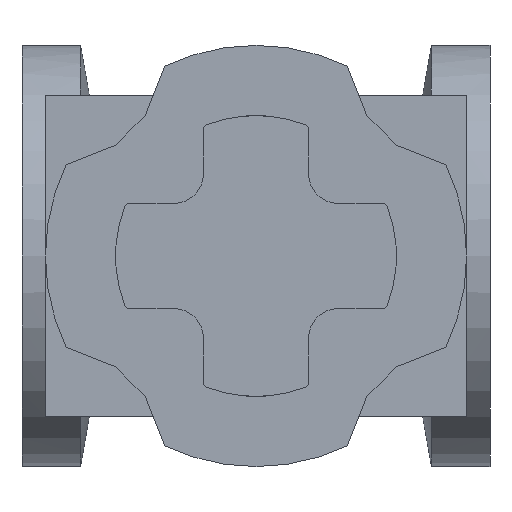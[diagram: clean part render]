
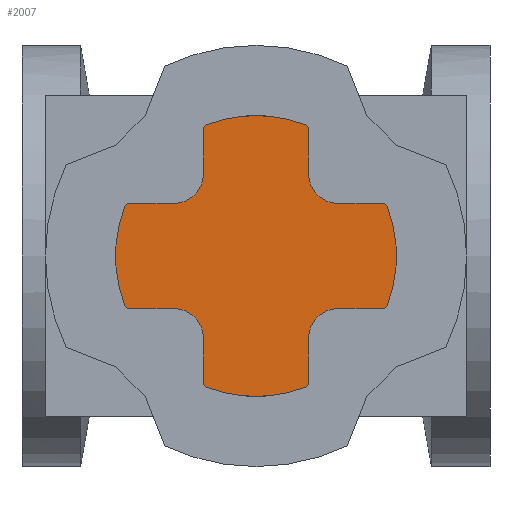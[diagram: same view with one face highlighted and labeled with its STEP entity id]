
A CAD part, front view. The second image highlights one B-rep face of the part: STEP entity #2007.
In plain terms, the highlighted planar face has unit normal (0, -1, 0).
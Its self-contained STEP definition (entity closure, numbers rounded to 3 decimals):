
#50=PLANE('',#2176);
#81=CIRCLE('',#2092,2.4);
#83=CIRCLE('',#2094,2.4);
#84=CIRCLE('',#2096,2.4);
#86=CIRCLE('',#2098,2.4);
#101=CIRCLE('',#2128,2.4);
#104=CIRCLE('',#2136,2.4);
#125=CIRCLE('',#2177,0.1);
#126=CIRCLE('',#2178,0.5);
#127=CIRCLE('',#2179,0.1);
#128=CIRCLE('',#2180,0.1);
#129=CIRCLE('',#2181,0.5);
#130=CIRCLE('',#2182,0.1);
#131=CIRCLE('',#2183,0.1);
#132=CIRCLE('',#2184,0.5);
#133=CIRCLE('',#2185,0.1);
#134=CIRCLE('',#2186,0.1);
#135=CIRCLE('',#2187,0.5);
#136=CIRCLE('',#2188,0.1);
#215=LINE('',#3141,#387);
#217=LINE('',#3145,#389);
#223=LINE('',#3159,#395);
#227=LINE('',#3172,#399);
#233=LINE('',#3186,#405);
#235=LINE('',#3190,#407);
#241=LINE('',#3204,#413);
#245=LINE('',#3217,#417);
#387=VECTOR('',#2413,1000.);
#389=VECTOR('',#2417,1000.);
#395=VECTOR('',#2425,1000.);
#399=VECTOR('',#2437,1000.);
#405=VECTOR('',#2445,1000.);
#407=VECTOR('',#2449,1000.);
#413=VECTOR('',#2457,1000.);
#417=VECTOR('',#2469,1000.);
#773=ORIENTED_EDGE('',*,*,#1160,.F.);
#774=ORIENTED_EDGE('',*,*,#1164,.F.);
#775=ORIENTED_EDGE('',*,*,#1323,.T.);
#776=ORIENTED_EDGE('',*,*,#1245,.F.);
#777=ORIENTED_EDGE('',*,*,#1324,.T.);
#778=ORIENTED_EDGE('',*,*,#1239,.F.);
#779=ORIENTED_EDGE('',*,*,#1325,.T.);
#780=ORIENTED_EDGE('',*,*,#1235,.F.);
#781=ORIENTED_EDGE('',*,*,#1326,.T.);
#782=ORIENTED_EDGE('',*,*,#1233,.F.);
#783=ORIENTED_EDGE('',*,*,#1327,.T.);
#784=ORIENTED_EDGE('',*,*,#1227,.F.);
#785=ORIENTED_EDGE('',*,*,#1328,.T.);
#786=ORIENTED_EDGE('',*,*,#1152,.F.);
#787=ORIENTED_EDGE('',*,*,#1156,.F.);
#788=ORIENTED_EDGE('',*,*,#1329,.T.);
#789=ORIENTED_EDGE('',*,*,#1225,.F.);
#790=ORIENTED_EDGE('',*,*,#1330,.T.);
#791=ORIENTED_EDGE('',*,*,#1259,.F.);
#792=ORIENTED_EDGE('',*,*,#1331,.T.);
#793=ORIENTED_EDGE('',*,*,#1257,.F.);
#794=ORIENTED_EDGE('',*,*,#1332,.T.);
#795=ORIENTED_EDGE('',*,*,#1253,.F.);
#796=ORIENTED_EDGE('',*,*,#1333,.T.);
#797=ORIENTED_EDGE('',*,*,#1247,.F.);
#798=ORIENTED_EDGE('',*,*,#1334,.T.);
#1152=EDGE_CURVE('',#1451,#1456,#81,.T.);
#1156=EDGE_CURVE('',#1459,#1451,#83,.T.);
#1160=EDGE_CURVE('',#1463,#1464,#84,.T.);
#1164=EDGE_CURVE('',#1467,#1463,#86,.T.);
#1225=EDGE_CURVE('',#1519,#1520,#215,.T.);
#1227=EDGE_CURVE('',#1521,#1522,#217,.T.);
#1233=EDGE_CURVE('',#1527,#1528,#223,.T.);
#1235=EDGE_CURVE('',#1529,#1530,#101,.T.);
#1239=EDGE_CURVE('',#1533,#1534,#227,.T.);
#1245=EDGE_CURVE('',#1539,#1540,#233,.T.);
#1247=EDGE_CURVE('',#1541,#1542,#235,.T.);
#1253=EDGE_CURVE('',#1547,#1548,#241,.T.);
#1257=EDGE_CURVE('',#1551,#1552,#104,.T.);
#1259=EDGE_CURVE('',#1553,#1554,#245,.T.);
#1323=EDGE_CURVE('',#1467,#1540,#125,.F.);
#1324=EDGE_CURVE('',#1539,#1534,#126,.T.);
#1325=EDGE_CURVE('',#1533,#1530,#127,.F.);
#1326=EDGE_CURVE('',#1529,#1528,#128,.F.);
#1327=EDGE_CURVE('',#1527,#1522,#129,.T.);
#1328=EDGE_CURVE('',#1521,#1456,#130,.F.);
#1329=EDGE_CURVE('',#1459,#1520,#131,.F.);
#1330=EDGE_CURVE('',#1519,#1554,#132,.T.);
#1331=EDGE_CURVE('',#1553,#1552,#133,.F.);
#1332=EDGE_CURVE('',#1551,#1548,#134,.F.);
#1333=EDGE_CURVE('',#1547,#1542,#135,.T.);
#1334=EDGE_CURVE('',#1541,#1464,#136,.F.);
#1451=VERTEX_POINT('',#2925);
#1456=VERTEX_POINT('',#2942);
#1459=VERTEX_POINT('',#2948);
#1463=VERTEX_POINT('',#2964);
#1464=VERTEX_POINT('',#2966);
#1467=VERTEX_POINT('',#2972);
#1519=VERTEX_POINT('',#3140);
#1520=VERTEX_POINT('',#3142);
#1521=VERTEX_POINT('',#3146);
#1522=VERTEX_POINT('',#3147);
#1527=VERTEX_POINT('',#3158);
#1528=VERTEX_POINT('',#3160);
#1529=VERTEX_POINT('',#3164);
#1530=VERTEX_POINT('',#3165);
#1533=VERTEX_POINT('',#3173);
#1534=VERTEX_POINT('',#3174);
#1539=VERTEX_POINT('',#3185);
#1540=VERTEX_POINT('',#3187);
#1541=VERTEX_POINT('',#3191);
#1542=VERTEX_POINT('',#3192);
#1547=VERTEX_POINT('',#3203);
#1548=VERTEX_POINT('',#3205);
#1551=VERTEX_POINT('',#3212);
#1552=VERTEX_POINT('',#3214);
#1553=VERTEX_POINT('',#3218);
#1554=VERTEX_POINT('',#3219);
#1728=EDGE_LOOP('',(#773,#774,#775,#776,#777,#778,#779,#780,#781,#782,#783,
#784,#785,#786,#787,#788,#789,#790,#791,#792,#793,#794,#795,#796,#797,#798));
#1844=FACE_BOUND('',#1728,.T.);
#2007=ADVANCED_FACE('',(#1844),#50,.F.);
#2092=AXIS2_PLACEMENT_3D('',#2941,#2309,#2310);
#2094=AXIS2_PLACEMENT_3D('',#2949,#2315,#2316);
#2096=AXIS2_PLACEMENT_3D('',#2965,#2320,#2321);
#2098=AXIS2_PLACEMENT_3D('',#2973,#2326,#2327);
#2128=AXIS2_PLACEMENT_3D('',#3163,#2429,#2430);
#2136=AXIS2_PLACEMENT_3D('',#3213,#2464,#2465);
#2176=AXIS2_PLACEMENT_3D('',#3371,#2577,#2578);
#2177=AXIS2_PLACEMENT_3D('',#3372,#2579,#2580);
#2178=AXIS2_PLACEMENT_3D('',#3373,#2581,#2582);
#2179=AXIS2_PLACEMENT_3D('',#3374,#2583,#2584);
#2180=AXIS2_PLACEMENT_3D('',#3375,#2585,#2586);
#2181=AXIS2_PLACEMENT_3D('',#3376,#2587,#2588);
#2182=AXIS2_PLACEMENT_3D('',#3377,#2589,#2590);
#2183=AXIS2_PLACEMENT_3D('',#3378,#2591,#2592);
#2184=AXIS2_PLACEMENT_3D('',#3379,#2593,#2594);
#2185=AXIS2_PLACEMENT_3D('',#3380,#2595,#2596);
#2186=AXIS2_PLACEMENT_3D('',#3381,#2597,#2598);
#2187=AXIS2_PLACEMENT_3D('',#3382,#2599,#2600);
#2188=AXIS2_PLACEMENT_3D('',#3383,#2601,#2602);
#2309=DIRECTION('',(0.,1.,0.));
#2310=DIRECTION('',(0.,0.,1.));
#2315=DIRECTION('',(0.,1.,0.));
#2316=DIRECTION('',(0.,0.,1.));
#2320=DIRECTION('',(0.,1.,0.));
#2321=DIRECTION('',(0.,0.,1.));
#2326=DIRECTION('',(0.,1.,0.));
#2327=DIRECTION('',(0.,0.,1.));
#2413=DIRECTION('',(0.,0.,1.));
#2417=DIRECTION('',(0.,0.,-1.));
#2425=DIRECTION('',(1.,0.,0.));
#2429=DIRECTION('',(0.,1.,0.));
#2430=DIRECTION('',(0.,0.,1.));
#2437=DIRECTION('',(-1.,0.,0.));
#2445=DIRECTION('',(0.,0.,-1.));
#2449=DIRECTION('',(0.,0.,1.));
#2457=DIRECTION('',(-1.,0.,0.));
#2464=DIRECTION('',(0.,1.,0.));
#2465=DIRECTION('',(0.,0.,1.));
#2469=DIRECTION('',(1.,0.,0.));
#2577=DIRECTION('',(0.,1.,0.));
#2578=DIRECTION('',(0.,0.,1.));
#2579=DIRECTION('',(0.,1.,0.));
#2580=DIRECTION('',(0.,0.,1.));
#2581=DIRECTION('',(0.,1.,0.));
#2582=DIRECTION('',(0.,0.,1.));
#2583=DIRECTION('',(0.,1.,0.));
#2584=DIRECTION('',(0.,0.,1.));
#2585=DIRECTION('',(0.,1.,0.));
#2586=DIRECTION('',(0.,0.,1.));
#2587=DIRECTION('',(0.,1.,0.));
#2588=DIRECTION('',(0.,0.,1.));
#2589=DIRECTION('',(0.,1.,0.));
#2590=DIRECTION('',(0.,0.,1.));
#2591=DIRECTION('',(0.,1.,0.));
#2592=DIRECTION('',(0.,0.,1.));
#2593=DIRECTION('',(0.,1.,0.));
#2594=DIRECTION('',(0.,0.,1.));
#2595=DIRECTION('',(0.,1.,0.));
#2596=DIRECTION('',(0.,0.,1.));
#2597=DIRECTION('',(0.,1.,0.));
#2598=DIRECTION('',(0.,0.,1.));
#2599=DIRECTION('',(0.,1.,0.));
#2600=DIRECTION('',(0.,0.,1.));
#2601=DIRECTION('',(0.,1.,0.));
#2602=DIRECTION('',(0.,0.,1.));
#2925=CARTESIAN_POINT('',(0.,7.,2.4));
#2941=CARTESIAN_POINT('',(0.,7.,0.));
#2942=CARTESIAN_POINT('',(0.835,7.,2.25));
#2948=CARTESIAN_POINT('',(-0.835,7.,2.25));
#2949=CARTESIAN_POINT('',(0.,7.,0.));
#2964=CARTESIAN_POINT('',(0.,7.,-2.4));
#2965=CARTESIAN_POINT('',(0.,7.,0.));
#2966=CARTESIAN_POINT('',(-0.835,7.,-2.25));
#2972=CARTESIAN_POINT('',(0.835,7.,-2.25));
#2973=CARTESIAN_POINT('',(0.,7.,0.));
#3140=CARTESIAN_POINT('',(-0.9,7.,1.4));
#3141=CARTESIAN_POINT('',(-0.9,7.,0.9));
#3142=CARTESIAN_POINT('',(-0.9,7.,2.156));
#3145=CARTESIAN_POINT('',(0.9,7.,0.9));
#3146=CARTESIAN_POINT('',(0.9,7.,2.156));
#3147=CARTESIAN_POINT('',(0.9,7.,1.4));
#3158=CARTESIAN_POINT('',(1.4,7.,0.9));
#3159=CARTESIAN_POINT('',(0.9,7.,0.9));
#3160=CARTESIAN_POINT('',(2.156,7.,0.9));
#3163=CARTESIAN_POINT('',(0.,7.,0.));
#3164=CARTESIAN_POINT('',(2.25,7.,0.835));
#3165=CARTESIAN_POINT('',(2.25,7.,-0.835));
#3172=CARTESIAN_POINT('',(0.9,7.,-0.9));
#3173=CARTESIAN_POINT('',(2.156,7.,-0.9));
#3174=CARTESIAN_POINT('',(1.4,7.,-0.9));
#3185=CARTESIAN_POINT('',(0.9,7.,-1.4));
#3186=CARTESIAN_POINT('',(0.9,7.,-0.9));
#3187=CARTESIAN_POINT('',(0.9,7.,-2.156));
#3190=CARTESIAN_POINT('',(-0.9,7.,-0.9));
#3191=CARTESIAN_POINT('',(-0.9,7.,-2.156));
#3192=CARTESIAN_POINT('',(-0.9,7.,-1.4));
#3203=CARTESIAN_POINT('',(-1.4,7.,-0.9));
#3204=CARTESIAN_POINT('',(-0.9,7.,-0.9));
#3205=CARTESIAN_POINT('',(-2.156,7.,-0.9));
#3212=CARTESIAN_POINT('',(-2.25,7.,-0.835));
#3213=CARTESIAN_POINT('',(0.,7.,0.));
#3214=CARTESIAN_POINT('',(-2.25,7.,0.835));
#3217=CARTESIAN_POINT('',(-0.9,7.,0.9));
#3218=CARTESIAN_POINT('',(-2.156,7.,0.9));
#3219=CARTESIAN_POINT('',(-1.4,7.,0.9));
#3371=CARTESIAN_POINT('',(0.,7.,2.75));
#3372=CARTESIAN_POINT('',(0.8,7.,-2.156));
#3373=CARTESIAN_POINT('',(1.4,7.,-1.4));
#3374=CARTESIAN_POINT('',(2.156,7.,-0.8));
#3375=CARTESIAN_POINT('',(2.156,7.,0.8));
#3376=CARTESIAN_POINT('',(1.4,7.,1.4));
#3377=CARTESIAN_POINT('',(0.8,7.,2.156));
#3378=CARTESIAN_POINT('',(-0.8,7.,2.156));
#3379=CARTESIAN_POINT('',(-1.4,7.,1.4));
#3380=CARTESIAN_POINT('',(-2.156,7.,0.8));
#3381=CARTESIAN_POINT('',(-2.156,7.,-0.8));
#3382=CARTESIAN_POINT('',(-1.4,7.,-1.4));
#3383=CARTESIAN_POINT('',(-0.8,7.,-2.156));
